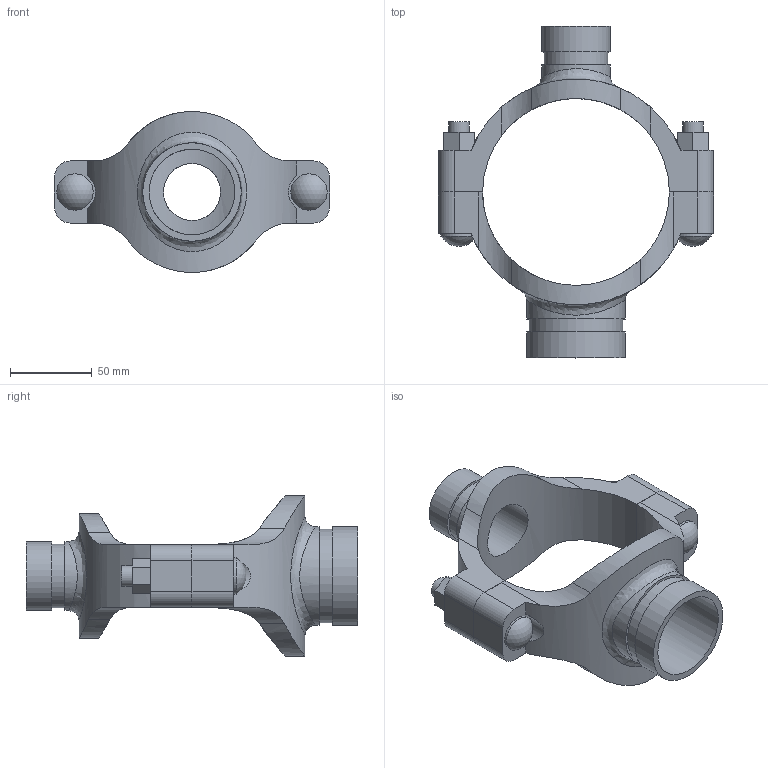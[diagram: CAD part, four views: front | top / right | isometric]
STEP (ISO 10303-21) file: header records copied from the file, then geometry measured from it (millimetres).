
FILE_DESCRIPTION(/* description */ ('VIC MECH-T BRANCH OUTLET CROSS STYLE 920N (GRVD)','CAx-IF Rec.Pracs.---Representation and Presentation of Product Manufacturing Information (PMI)---4.0---2014-10-13'),/* implementation_level */ '2;1');
FILE_NAME(/* name */ 'C:\Users\Vjadhav\AppData\Roaming\Autodesk\ApplicationPlugins\Back Up\Victaulic_IPS_Mechanical-Cross Outlet_Style 920N (OGS)\Victaulic_IPS_Mechanical-Cross Outlet_04.0x01.25x02.0 (100x32x50).stp',/* time_stamp */ '2020-08-06T19:43:40+05:00',/* author */ ('Vjadhav'),/* organization */ ('Victaulic'),/* preprocessor_version */ 'ST-DEVELOPER v17.2',/* originating_system */ 'Autodesk Inventor 2019',/* authorisation */ '');
FILE_SCHEMA (('AP242_MANAGED_MODEL_BASED_3D_ENGINEERING_MIM_LF { 1 0 10303 442 1 1 4 }'));
Length unit declared in the file: inch
Products named in the file (3): 920NG-04.0x01.25x02.0; 920NG-04.0x01.25; 920NG-04.0x02.0
Assembly tree (2 placements, depth 2):
  920NG-04.0x01.25x02.0
    920NG-04.0x01.25
    920NG-04.0x02.0
Bounding box: 168.4 x 203.2 x 98.44 mm (x, y, z)
Volume: 316932 mm3; surface area: 93281.3 mm2
Topology: 2 solids, 2 shells, 108 faces, 274 edges, 186 vertices
Faces by surface type: plane 54, cylinder 50, sphere 2, bspline 2
Full cylindrical faces by diameter (mm): 12.7 x4, 22.225 x2, 34.925 x1, 38.989 x1, 42.164 x2, 52.387 x1, 57.15 x1, 60.325 x2
Entity records: 4374 total; most frequent: CARTESIAN_POINT 1493, DIRECTION 552, ORIENTED_EDGE 548, EDGE_CURVE 274, AXIS2_PLACEMENT_3D 201, VERTEX_POINT 186, LINE 150, VECTOR 150
